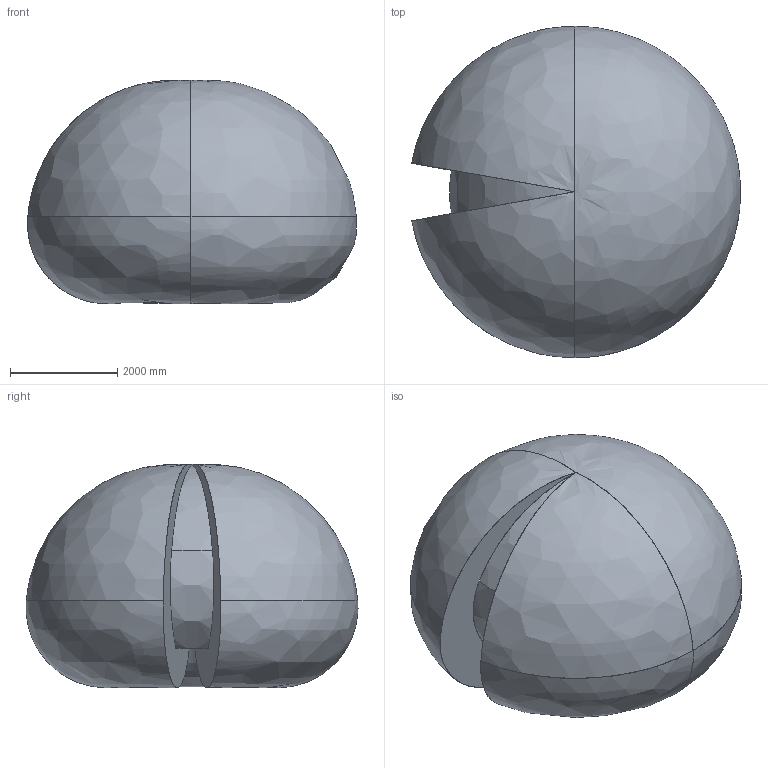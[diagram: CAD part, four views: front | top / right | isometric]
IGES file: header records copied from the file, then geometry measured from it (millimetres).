
Start section: SolidWorks IGES file using analytic representation for surfaces
Global section: file name: C:\DATA\SAP_DOC\LW\IRB 6720\IRB6720-LID-SW_150kg-310_OC_01_SW_J\export\IRB6720-LID-SW_150kg-310_OC_01_IGES_J\IRB6720-LID_150kg-310_OC_00_Working-space.igs; native system: SolidWorks 2024; preprocessor: SolidWorks 2024; author: SEJOVAS3; date: 260526.095620; units: millimetre
Bounding box: 6143.71 x 6199.84 x 4171.65 mm (x, y, z)
Surface area: 125279585.2 mm2 (no closed solid volume)
Topology: 0 solids, 0 shells, 18 faces, 392 edges, 384 vertices
Faces by surface type: bspline 18
